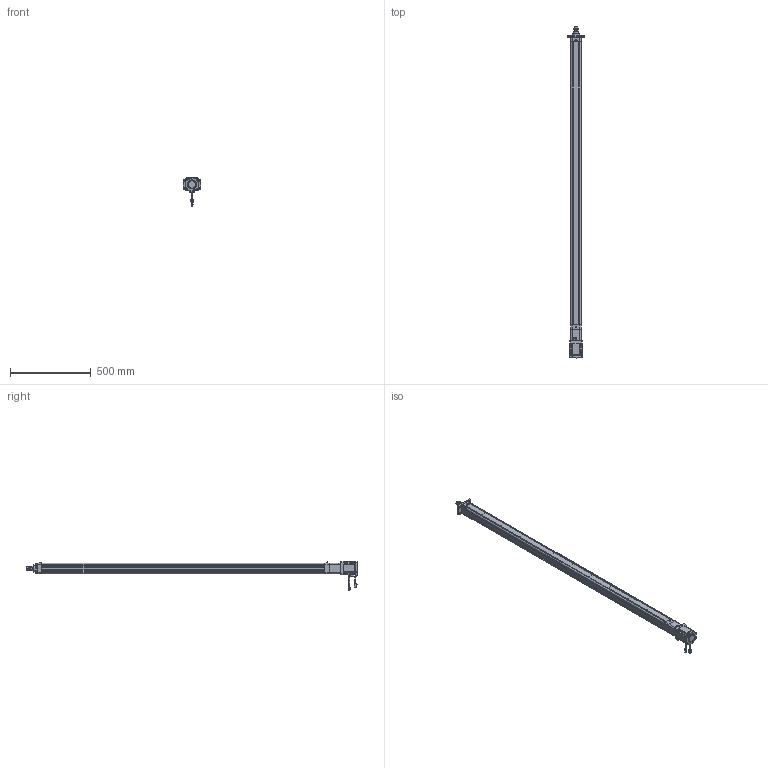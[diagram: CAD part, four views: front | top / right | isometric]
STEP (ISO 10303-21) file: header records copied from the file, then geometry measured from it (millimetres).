
FILE_DESCRIPTION((''),'2;1');
FILE_NAME('HE50-D-100-X1_ASM','2020-04-16T',('ASUS20200'),(''),'CREO PARAMETRIC BY PTC INC, 2014190','CREO PARAMETRIC BY PTC INC, 2014190','');
FILE_SCHEMA(('CONFIG_CONTROL_DESIGN'));
Length unit declared in the file: millimetre
Products named in the file (27): HE50-D-P-001-X1; HE50-D-P-002-X1; HE50-D-P-003-X1; HE50-D-009-X1; HE50-D-010-X1; 6301ZZ; LGLM-M8-22; SKT-16; SLM-01; YZ-M6X1; _MHMF082L1A2; _CABLE_MOTOR_BOTTOM_05; _CABLE_MOTOR_TOP_05; _MOTOR_CONNECTOR_2; _CABLE_BRAKE_BOTTOM_05; _CABLE_BRAKE_TOP_05; _MHMF_CONNECTOR_9_PIN_A6; MHMF082L1A2M2_1_ASM; M6X16; JX6X6X20; JDB303820; HE50-D-P-005-X1; HE50-D-P-004-X1; HE50-D-P-008-X1; F-SE50FA; M8X16; HE50-D-100-X1_ASM
Assembly tree (39 placements, depth 3):
  HE50-D-100-X1_ASM
    HE50-D-P-001-X1
    HE50-D-P-002-X1
    HE50-D-P-003-X1
    HE50-D-009-X1
    HE50-D-010-X1
    6301ZZ
    LGLM-M8-22  x8
    SKT-16
    SLM-01
    YZ-M6X1
    MHMF082L1A2M2_1_ASM
      _MHMF082L1A2
      _CABLE_MOTOR_BOTTOM_05
      _CABLE_MOTOR_TOP_05
      _MOTOR_CONNECTOR_2
      _CABLE_BRAKE_BOTTOM_05
      _CABLE_BRAKE_TOP_05
      _MHMF_CONNECTOR_9_PIN_A6
    M6X16  x4
    JX6X6X20
    JDB303820
    HE50-D-P-005-X1
    HE50-D-P-004-X1
    HE50-D-P-008-X1
    F-SE50FA
    M8X16  x4
Bounding box: 108 x 2058.4 x 173.65 mm (x, y, z)
Volume: 4129386.9 mm3; surface area: 1264135.9 mm2
Topology: 38 solids, 66 shells, 2390 faces, 5797 edges, 3621 vertices
Faces by surface type: plane 1001, cylinder 703, cone 521, torus 118, sphere 44, bspline 3
Entity records: 60869 total; most frequent: CARTESIAN_POINT 11268, DIRECTION 10983, ORIENTED_EDGE 9682, EDGE_CURVE 4887, AXIS2_PLACEMENT_3D 4145, VERTEX_POINT 3080, VECTOR 2693, LINE 2693
